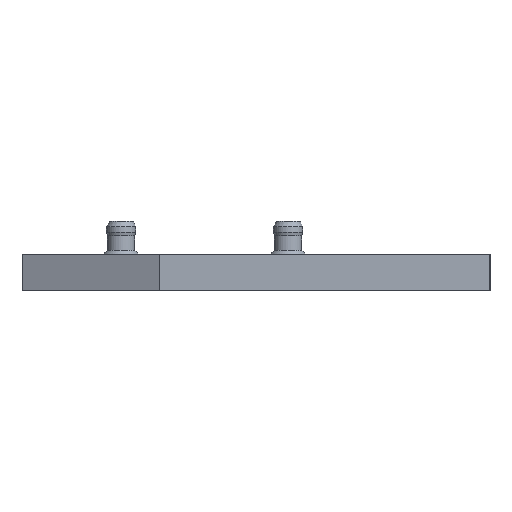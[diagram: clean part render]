
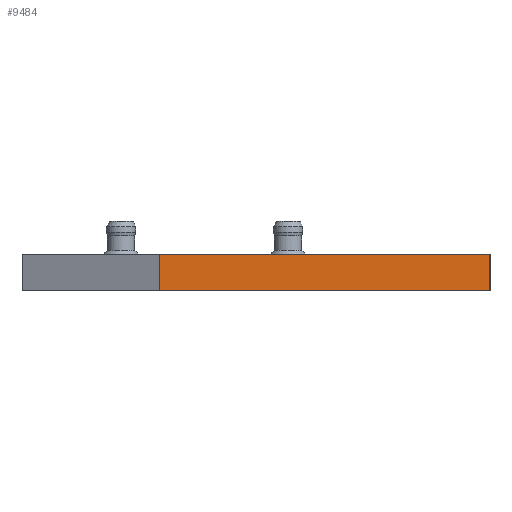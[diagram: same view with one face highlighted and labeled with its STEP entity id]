
A CAD part, left-side view. The second image highlights one B-rep face of the part: STEP entity #9484.
In plain terms, the highlighted planar face has unit normal (-1, 0, 0).
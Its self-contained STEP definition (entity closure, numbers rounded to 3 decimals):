
#1056 = LINE ( 'NONE', #7007, #14662 ) ;
#1492 = EDGE_LOOP ( 'NONE', ( #10254, #11038, #9307, #1525 ) ) ;
#1525 = ORIENTED_EDGE ( 'NONE', *, *, #2983, .T. ) ;
#2277 = DIRECTION ( 'NONE',  ( 0., 0., -1. ) ) ;
#2983 = EDGE_CURVE ( 'NONE', #12344, #10998, #1056, .T. ) ;
#3070 = CARTESIAN_POINT ( 'NONE',  ( -35.738, 3.002, 0. ) ) ;
#3588 = CARTESIAN_POINT ( 'NONE',  ( -35.738, 0., 2. ) ) ;
#4559 = LINE ( 'NONE', #13089, #12366 ) ;
#4960 = AXIS2_PLACEMENT_3D ( 'NONE', #3588, #13064, #2277 ) ;
#5349 = LINE ( 'NONE', #14813, #6882 ) ;
#5743 = DIRECTION ( 'NONE',  ( 0., 0., -1. ) ) ;
#6488 = CARTESIAN_POINT ( 'NONE',  ( -35.738, -14.998, 2. ) ) ;
#6553 = FACE_OUTER_BOUND ( 'NONE', #1492, .T. ) ;
#6882 = VECTOR ( 'NONE', #7665, 1000. ) ;
#7007 = CARTESIAN_POINT ( 'NONE',  ( -35.738, 3.002, 2. ) ) ;
#7033 = VERTEX_POINT ( 'NONE', #13410 ) ;
#7218 = EDGE_CURVE ( 'NONE', #12344, #9901, #5349, .T. ) ;
#7665 = DIRECTION ( 'NONE',  ( 0., -1., 0. ) ) ;
#7679 = EDGE_CURVE ( 'NONE', #10998, #7033, #4559, .T. ) ;
#7754 = DIRECTION ( 'NONE',  ( 0., 0., -1. ) ) ;
#8554 = VECTOR ( 'NONE', #7754, 1000. ) ;
#9307 = ORIENTED_EDGE ( 'NONE', *, *, #7218, .F. ) ;
#9484 = ADVANCED_FACE ( 'NONE', ( #6553 ), #11855, .F. ) ;
#9901 = VERTEX_POINT ( 'NONE', #12897 ) ;
#10254 = ORIENTED_EDGE ( 'NONE', *, *, #7679, .T. ) ;
#10998 = VERTEX_POINT ( 'NONE', #3070 ) ;
#11038 = ORIENTED_EDGE ( 'NONE', *, *, #11807, .F. ) ;
#11732 = LINE ( 'NONE', #6488, #8554 ) ;
#11807 = EDGE_CURVE ( 'NONE', #9901, #7033, #11732, .T. ) ;
#11855 = PLANE ( 'NONE',  #4960 ) ;
#11932 = DIRECTION ( 'NONE',  ( 0., -1., 0. ) ) ;
#12344 = VERTEX_POINT ( 'NONE', #12735 ) ;
#12366 = VECTOR ( 'NONE', #11932, 1000. ) ;
#12735 = CARTESIAN_POINT ( 'NONE',  ( -35.738, 3.002, 2. ) ) ;
#12897 = CARTESIAN_POINT ( 'NONE',  ( -35.738, -14.998, 2. ) ) ;
#13064 = DIRECTION ( 'NONE',  ( 1., 0., 0. ) ) ;
#13089 = CARTESIAN_POINT ( 'NONE',  ( -35.738, 0., 0. ) ) ;
#13410 = CARTESIAN_POINT ( 'NONE',  ( -35.738, -14.998, 0. ) ) ;
#14662 = VECTOR ( 'NONE', #5743, 1000. ) ;
#14813 = CARTESIAN_POINT ( 'NONE',  ( -35.738, 0., 2. ) ) ;
